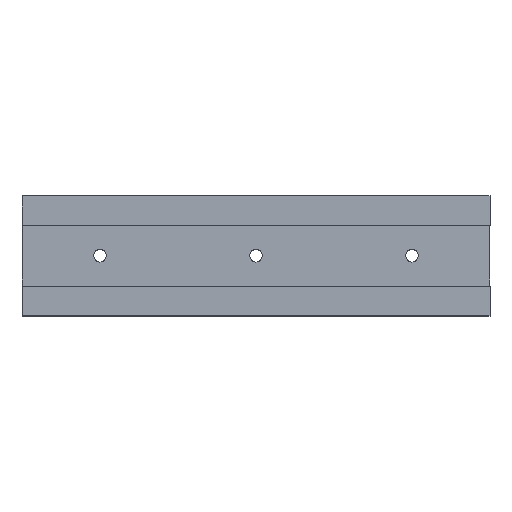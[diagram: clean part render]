
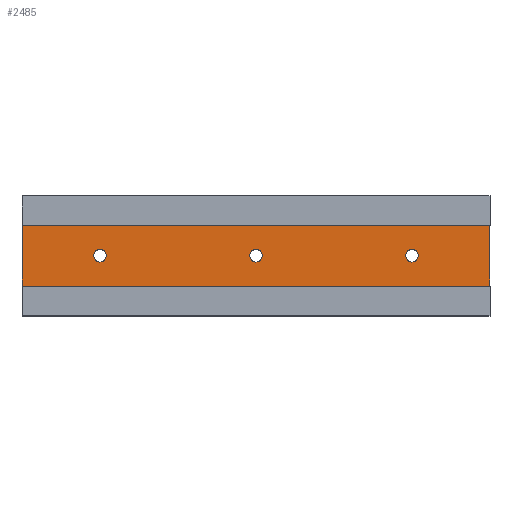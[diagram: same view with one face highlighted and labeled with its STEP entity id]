
A CAD part, top view. The second image highlights one B-rep face of the part: STEP entity #2485.
In plain terms, the highlighted planar face has unit normal (0, 0, 1).
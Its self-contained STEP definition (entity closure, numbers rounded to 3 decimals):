
#47 = VECTOR ( 'NONE', #20846, 1000. ) ;
#191 = VERTEX_POINT ( 'NONE', #26714 ) ;
#343 = FACE_OUTER_BOUND ( 'NONE', #8880, .T. ) ;
#453 = DIRECTION ( 'NONE',  ( -1., 0., 0. ) ) ;
#1255 = VERTEX_POINT ( 'NONE', #32213 ) ;
#1988 = DIRECTION ( 'NONE',  ( 0., 1., 0. ) ) ;
#2270 = EDGE_CURVE ( 'NONE', #12701, #3746, #3481, .T. ) ;
#2274 = AXIS2_PLACEMENT_3D ( 'NONE', #10944, #16070, #26227 ) ;
#2290 = ORIENTED_EDGE ( 'NONE', *, *, #16335, .T. ) ;
#2389 = LINE ( 'NONE', #23360, #27164 ) ;
#2485 = ADVANCED_FACE ( 'NONE', ( #19506, #6542, #25025, #343 ), #11037, .T. ) ;
#2682 = CIRCLE ( 'NONE', #7107, 3.4 ) ;
#3147 = CIRCLE ( 'NONE', #2274, 3.4 ) ;
#3481 = CIRCLE ( 'NONE', #9473, 3.4 ) ;
#3695 = CARTESIAN_POINT ( 'NONE',  ( -5.796, -0.435, 15. ) ) ;
#3746 = VERTEX_POINT ( 'NONE', #31086 ) ;
#5866 = CARTESIAN_POINT ( 'NONE',  ( -89.796, -0.435, 15. ) ) ;
#6537 = EDGE_CURVE ( 'NONE', #19866, #14760, #21592, .T. ) ;
#6542 = FACE_BOUND ( 'NONE', #22020, .T. ) ;
#6823 = DIRECTION ( 'NONE',  ( 0., 0., -1. ) ) ;
#6986 = AXIS2_PLACEMENT_3D ( 'NONE', #3695, #18370, #29028 ) ;
#7033 = CIRCLE ( 'NONE', #30252, 3.4 ) ;
#7107 = AXIS2_PLACEMENT_3D ( 'NONE', #29353, #19563, #16930 ) ;
#7766 = EDGE_CURVE ( 'NONE', #14391, #11173, #7033, .T. ) ;
#7871 = AXIS2_PLACEMENT_3D ( 'NONE', #21881, #6823, #11991 ) ;
#8684 = CARTESIAN_POINT ( 'NONE',  ( -131.796, 15.915, 15. ) ) ;
#8880 = EDGE_LOOP ( 'NONE', ( #14858, #19090, #29495, #10682 ) ) ;
#9473 = AXIS2_PLACEMENT_3D ( 'NONE', #10606, #20452, #453 ) ;
#9903 = CARTESIAN_POINT ( 'NONE',  ( -131.796, 15.915, 15. ) ) ;
#10450 = CARTESIAN_POINT ( 'NONE',  ( 120.204, -16.785, 15. ) ) ;
#10606 = CARTESIAN_POINT ( 'NONE',  ( -5.796, -0.435, 15. ) ) ;
#10682 = ORIENTED_EDGE ( 'NONE', *, *, #29335, .T. ) ;
#10944 = CARTESIAN_POINT ( 'NONE',  ( -5.796, -0.435, 15. ) ) ;
#11037 = PLANE ( 'NONE',  #6986 ) ;
#11159 = DIRECTION ( 'NONE',  ( -1., 0., 0. ) ) ;
#11173 = VERTEX_POINT ( 'NONE', #29329 ) ;
#11549 = ORIENTED_EDGE ( 'NONE', *, *, #20633, .T. ) ;
#11651 = CARTESIAN_POINT ( 'NONE',  ( -9.196, -0.435, 15. ) ) ;
#11991 = DIRECTION ( 'NONE',  ( -1., 0., 0. ) ) ;
#12701 = VERTEX_POINT ( 'NONE', #11651 ) ;
#13806 = EDGE_CURVE ( 'NONE', #28092, #15099, #20049, .T. ) ;
#14391 = VERTEX_POINT ( 'NONE', #29000 ) ;
#14760 = VERTEX_POINT ( 'NONE', #25806 ) ;
#14856 = LINE ( 'NONE', #9903, #24701 ) ;
#14858 = ORIENTED_EDGE ( 'NONE', *, *, #13806, .T. ) ;
#15099 = VERTEX_POINT ( 'NONE', #20023 ) ;
#16070 = DIRECTION ( 'NONE',  ( 0., 0., -1. ) ) ;
#16335 = EDGE_CURVE ( 'NONE', #1255, #191, #25162, .T. ) ;
#16734 = CIRCLE ( 'NONE', #7871, 3.4 ) ;
#16797 = CARTESIAN_POINT ( 'NONE',  ( 78.204, -0.435, 15. ) ) ;
#16930 = DIRECTION ( 'NONE',  ( -1., 0., 0. ) ) ;
#17042 = EDGE_CURVE ( 'NONE', #191, #1255, #2682, .T. ) ;
#17616 = ORIENTED_EDGE ( 'NONE', *, *, #17042, .T. ) ;
#18370 = DIRECTION ( 'NONE',  ( 0., 0., 1. ) ) ;
#18771 = EDGE_CURVE ( 'NONE', #15099, #19866, #14856, .T. ) ;
#19090 = ORIENTED_EDGE ( 'NONE', *, *, #18771, .T. ) ;
#19506 = FACE_BOUND ( 'NONE', #21566, .T. ) ;
#19563 = DIRECTION ( 'NONE',  ( 0., 0., -1. ) ) ;
#19707 = CARTESIAN_POINT ( 'NONE',  ( 120.204, 15.915, 15. ) ) ;
#19866 = VERTEX_POINT ( 'NONE', #27404 ) ;
#20023 = CARTESIAN_POINT ( 'NONE',  ( 120.204, 15.915, 15. ) ) ;
#20049 = LINE ( 'NONE', #19707, #21245 ) ;
#20452 = DIRECTION ( 'NONE',  ( 0., 0., -1. ) ) ;
#20633 = EDGE_CURVE ( 'NONE', #3746, #12701, #3147, .T. ) ;
#20846 = DIRECTION ( 'NONE',  ( 0., -1., 0. ) ) ;
#20894 = DIRECTION ( 'NONE',  ( 0., 0., -1. ) ) ;
#21245 = VECTOR ( 'NONE', #1988, 1000. ) ;
#21566 = EDGE_LOOP ( 'NONE', ( #2290, #17616 ) ) ;
#21592 = LINE ( 'NONE', #8684, #47 ) ;
#21881 = CARTESIAN_POINT ( 'NONE',  ( 78.204, -0.435, 15. ) ) ;
#22020 = EDGE_LOOP ( 'NONE', ( #26283, #11549 ) ) ;
#23121 = ORIENTED_EDGE ( 'NONE', *, *, #7766, .T. ) ;
#23360 = CARTESIAN_POINT ( 'NONE',  ( -131.796, -16.785, 15. ) ) ;
#23459 = ORIENTED_EDGE ( 'NONE', *, *, #25579, .T. ) ;
#23720 = AXIS2_PLACEMENT_3D ( 'NONE', #5866, #20894, #11159 ) ;
#24701 = VECTOR ( 'NONE', #29763, 1000. ) ;
#25025 = FACE_BOUND ( 'NONE', #29316, .T. ) ;
#25162 = CIRCLE ( 'NONE', #23720, 3.4 ) ;
#25579 = EDGE_CURVE ( 'NONE', #11173, #14391, #16734, .T. ) ;
#25806 = CARTESIAN_POINT ( 'NONE',  ( -131.796, -16.785, 15. ) ) ;
#26227 = DIRECTION ( 'NONE',  ( -1., 0., 0. ) ) ;
#26283 = ORIENTED_EDGE ( 'NONE', *, *, #2270, .T. ) ;
#26714 = CARTESIAN_POINT ( 'NONE',  ( -86.396, -0.435, 15. ) ) ;
#26861 = DIRECTION ( 'NONE',  ( 0., 0., -1. ) ) ;
#27164 = VECTOR ( 'NONE', #27978, 1000. ) ;
#27404 = CARTESIAN_POINT ( 'NONE',  ( -131.796, 15.915, 15. ) ) ;
#27978 = DIRECTION ( 'NONE',  ( 1., 0., 0. ) ) ;
#28092 = VERTEX_POINT ( 'NONE', #10450 ) ;
#29000 = CARTESIAN_POINT ( 'NONE',  ( 81.604, -0.435, 15. ) ) ;
#29028 = DIRECTION ( 'NONE',  ( 1., 0., 0. ) ) ;
#29316 = EDGE_LOOP ( 'NONE', ( #23459, #23121 ) ) ;
#29329 = CARTESIAN_POINT ( 'NONE',  ( 74.804, -0.435, 15. ) ) ;
#29335 = EDGE_CURVE ( 'NONE', #14760, #28092, #2389, .T. ) ;
#29353 = CARTESIAN_POINT ( 'NONE',  ( -89.796, -0.435, 15. ) ) ;
#29495 = ORIENTED_EDGE ( 'NONE', *, *, #6537, .T. ) ;
#29763 = DIRECTION ( 'NONE',  ( -1., 0., 0. ) ) ;
#30252 = AXIS2_PLACEMENT_3D ( 'NONE', #16797, #26861, #31739 ) ;
#31086 = CARTESIAN_POINT ( 'NONE',  ( -2.396, -0.435, 15. ) ) ;
#31739 = DIRECTION ( 'NONE',  ( -1., 0., 0. ) ) ;
#32213 = CARTESIAN_POINT ( 'NONE',  ( -93.196, -0.435, 15. ) ) ;
